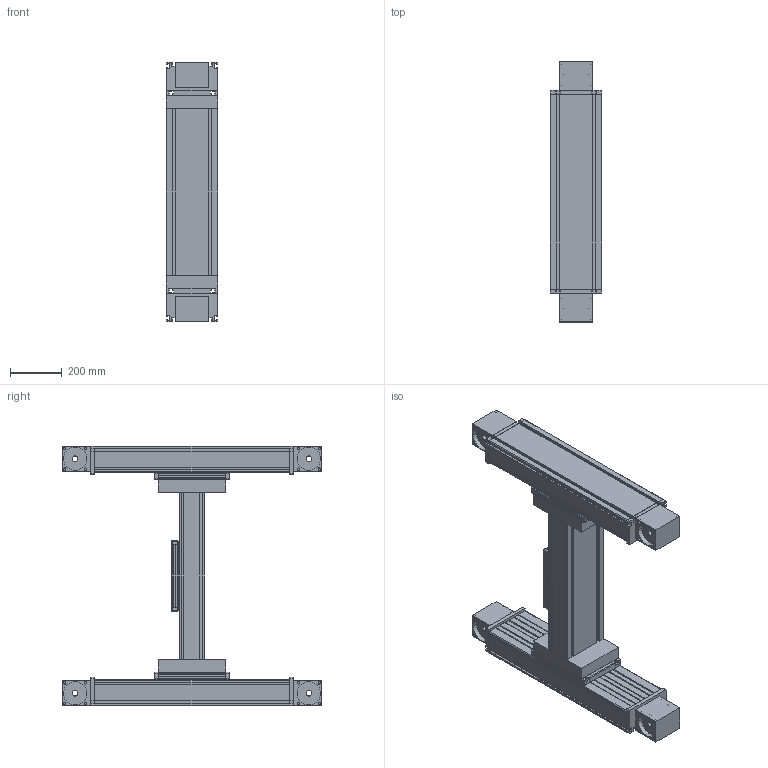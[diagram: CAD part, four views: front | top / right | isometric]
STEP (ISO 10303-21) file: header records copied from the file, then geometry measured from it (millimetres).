
FILE_DESCRIPTION (( 'STEP AP214' ), '1' );
FILE_NAME ('DLZU 200.STEP', '2023-07-04T09:33:22', ( '' ), ( '' ), 'SwSTEP 2.0', 'SolidWorks 2020', '' );
FILE_SCHEMA (( 'AUTOMOTIVE_DESIGN' ));
Length unit declared in the file: millimetre
Products named in the file (8): profile y^DLZU 200 - Konfig - ED_standard; profile x^DLZU 200 - Konfig - ED_standard; timing belt reverse unit^DLZU 200 - Konfig - ED_coupling claw pos.1; DLZU 200; end plate^DLZU 200 - Konfig - ED_0; carriage y^DLZU 200 - Konfig - ED_carriage version 0; timing belt reverse unit^DLZU 200 - Konfig - ED_coupling claw pos.2; carriage x^DLZU 200 - Konfig - ED_carriage version 0
Assembly tree (14 placements, depth 2):
  DLZU 200
    profile x^DLZU 200 - Konfig - ED_standard
    profile y^DLZU 200 - Konfig - ED_standard  x2
    carriage x^DLZU 200 - Konfig - ED_carriage version 0
    carriage y^DLZU 200 - Konfig - ED_carriage version 0  x2
    timing belt reverse unit^DLZU 200 - Konfig - ED_coupling claw pos.2  x2
    timing belt reverse unit^DLZU 200 - Konfig - ED_coupling claw pos.1  x2
    end plate^DLZU 200 - Konfig - ED_0  x4
Bounding box: 200 x 1000 x 1000 mm (x, y, z)
Volume: 37780618.3 mm3; surface area: 5608238.1 mm2
Topology: 34 solids, 34 shells, 1160 faces, 3060 edges, 2024 vertices
Faces by surface type: plane 831, cylinder 305, torus 24
Entity records: 22223 total; most frequent: CARTESIAN_POINT 3645, ORIENTED_EDGE 3560, DIRECTION 3486, EDGE_CURVE 1780, LINE 1452, VECTOR 1452, VERTEX_POINT 1176, AXIS2_PLACEMENT_3D 1017
